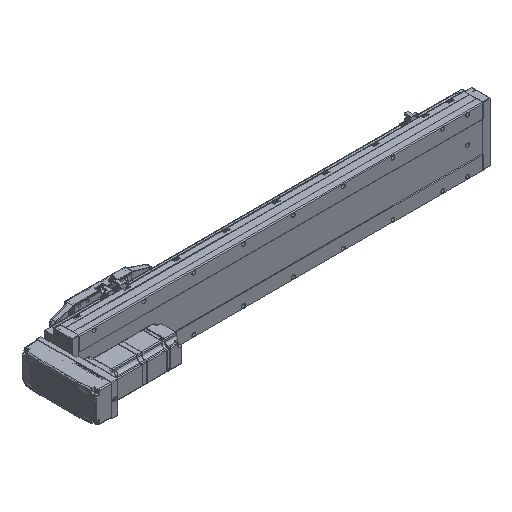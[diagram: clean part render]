
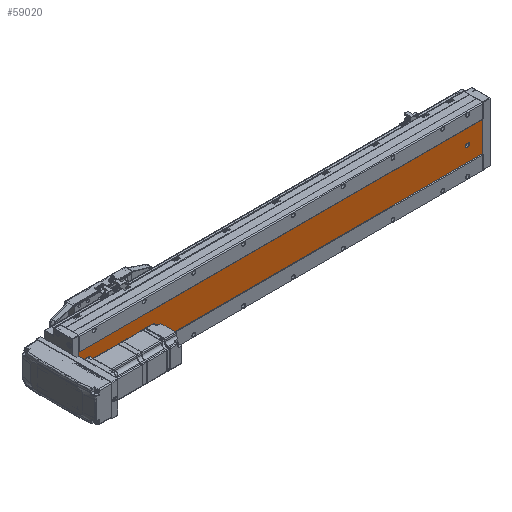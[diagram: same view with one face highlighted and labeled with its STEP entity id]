
A CAD part, isometric view. The second image highlights one B-rep face of the part: STEP entity #59020.
In plain terms, the highlighted planar face has unit normal (0, -1, 0).
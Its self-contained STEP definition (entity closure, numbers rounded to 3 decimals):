
#669 = CARTESIAN_POINT ( 'NONE',  ( -39.892, -52.848, 777.5 ) ) ;
#1227 = CARTESIAN_POINT ( 'NONE',  ( -36.392, -52.848, 811. ) ) ;
#1866 = CARTESIAN_POINT ( 'NONE',  ( -9.892, -52.848, 0. ) ) ;
#2814 = DIRECTION ( 'NONE',  ( 0., 0., 1. ) ) ;
#3442 = AXIS2_PLACEMENT_3D ( 'NONE', #9436, #33025, #2814 ) ;
#3583 = VERTEX_POINT ( 'NONE', #21630 ) ;
#4098 = VECTOR ( 'NONE', #8934, 1000. ) ;
#4342 = CARTESIAN_POINT ( 'NONE',  ( -39.892, -52.848, 784.5 ) ) ;
#4969 = VERTEX_POINT ( 'NONE', #26384 ) ;
#5356 = ORIENTED_EDGE ( 'NONE', *, *, #30954, .T. ) ;
#5960 = CARTESIAN_POINT ( 'NONE',  ( -69.892, -52.848, 811. ) ) ;
#5987 = CIRCLE ( 'NONE', #74543, 3.5 ) ;
#6140 = CARTESIAN_POINT ( 'NONE',  ( -39.892, -52.848, 26.5 ) ) ;
#6318 = EDGE_CURVE ( 'NONE', #64102, #4969, #70614, .T. ) ;
#7580 = DIRECTION ( 'NONE',  ( 0., 0., 1. ) ) ;
#7690 = EDGE_CURVE ( 'NONE', #22641, #64109, #63854, .T. ) ;
#8378 = LINE ( 'NONE', #5960, #47227 ) ;
#8934 = DIRECTION ( 'NONE',  ( 0., 0., -1. ) ) ;
#9436 = CARTESIAN_POINT ( 'NONE',  ( -69.892, -52.848, 811. ) ) ;
#9840 = EDGE_CURVE ( 'NONE', #69020, #36803, #22616, .T. ) ;
#10709 = CIRCLE ( 'NONE', #67692, 3.5 ) ;
#11244 = CARTESIAN_POINT ( 'NONE',  ( -36.392, -52.848, 30. ) ) ;
#12187 = DIRECTION ( 'NONE',  ( 0., 0., 1. ) ) ;
#17876 = CARTESIAN_POINT ( 'NONE',  ( -9.892, -52.848, 811. ) ) ;
#18481 = ORIENTED_EDGE ( 'NONE', *, *, #9840, .T. ) ;
#18681 = CARTESIAN_POINT ( 'NONE',  ( -69.892, -52.848, 0. ) ) ;
#18747 = ORIENTED_EDGE ( 'NONE', *, *, #7690, .F. ) ;
#19376 = FACE_OUTER_BOUND ( 'NONE', #67653, .T. ) ;
#19897 = EDGE_CURVE ( 'NONE', #3583, #24231, #43252, .T. ) ;
#20036 = DIRECTION ( 'NONE',  ( 0., 0., 1. ) ) ;
#20340 = AXIS2_PLACEMENT_3D ( 'NONE', #31711, #73932, #7580 ) ;
#21630 = CARTESIAN_POINT ( 'NONE',  ( -43.392, -52.848, 30. ) ) ;
#22616 = CIRCLE ( 'NONE', #24709, 3.5 ) ;
#22641 = VERTEX_POINT ( 'NONE', #17876 ) ;
#23317 = ORIENTED_EDGE ( 'NONE', *, *, #65452, .T. ) ;
#23514 = DIRECTION ( 'NONE',  ( 0., 1., 0. ) ) ;
#23825 = EDGE_LOOP ( 'NONE', ( #18481, #54421 ) ) ;
#24231 = VERTEX_POINT ( 'NONE', #74295 ) ;
#24447 = CARTESIAN_POINT ( 'NONE',  ( -39.892, -52.848, 781. ) ) ;
#24709 = AXIS2_PLACEMENT_3D ( 'NONE', #24447, #55190, #36125 ) ;
#25557 = DIRECTION ( 'NONE',  ( 0., 0., -1. ) ) ;
#25682 = CARTESIAN_POINT ( 'NONE',  ( -69.892, -52.848, 811. ) ) ;
#25851 = CARTESIAN_POINT ( 'NONE',  ( -39.892, -52.848, 32. ) ) ;
#26373 = CIRCLE ( 'NONE', #75484, 3.5 ) ;
#26384 = CARTESIAN_POINT ( 'NONE',  ( -39.892, -52.848, 684.5 ) ) ;
#26636 = ORIENTED_EDGE ( 'NONE', *, *, #19897, .T. ) ;
#26903 = PLANE ( 'NONE',  #3442 ) ;
#26940 = FACE_BOUND ( 'NONE', #29094, .T. ) ;
#28057 = VECTOR ( 'NONE', #48833, 1000. ) ;
#29094 = EDGE_LOOP ( 'NONE', ( #39901, #53133, #5356, #41180, #26636 ) ) ;
#29878 = EDGE_CURVE ( 'NONE', #37718, #22641, #8378, .T. ) ;
#30378 = AXIS2_PLACEMENT_3D ( 'NONE', #54315, #78464, #12187 ) ;
#30954 = EDGE_CURVE ( 'NONE', #38626, #43805, #61661, .T. ) ;
#31692 = FACE_BOUND ( 'NONE', #23825, .T. ) ;
#31711 = CARTESIAN_POINT ( 'NONE',  ( -39.892, -52.848, 30. ) ) ;
#32420 = EDGE_LOOP ( 'NONE', ( #42169, #35755 ) ) ;
#32844 = VECTOR ( 'NONE', #35814, 1000. ) ;
#33025 = DIRECTION ( 'NONE',  ( 0., 1., 0. ) ) ;
#34786 = EDGE_CURVE ( 'NONE', #4969, #64102, #5987, .T. ) ;
#34842 = AXIS2_PLACEMENT_3D ( 'NONE', #41797, #23514, #77120 ) ;
#35755 = ORIENTED_EDGE ( 'NONE', *, *, #34786, .T. ) ;
#35814 = DIRECTION ( 'NONE',  ( 0., 0., -1. ) ) ;
#36094 = VECTOR ( 'NONE', #25557, 1000. ) ;
#36125 = DIRECTION ( 'NONE',  ( 0., 0., 1. ) ) ;
#36437 = EDGE_CURVE ( 'NONE', #37594, #38626, #68384, .T. ) ;
#36707 = DIRECTION ( 'NONE',  ( 0., 0., 1. ) ) ;
#36803 = VERTEX_POINT ( 'NONE', #4342 ) ;
#37594 = VERTEX_POINT ( 'NONE', #73242 ) ;
#37718 = VERTEX_POINT ( 'NONE', #25682 ) ;
#37772 = ORIENTED_EDGE ( 'NONE', *, *, #29878, .F. ) ;
#38626 = VERTEX_POINT ( 'NONE', #11244 ) ;
#39901 = ORIENTED_EDGE ( 'NONE', *, *, #71644, .T. ) ;
#41180 = ORIENTED_EDGE ( 'NONE', *, *, #77028, .T. ) ;
#41797 = CARTESIAN_POINT ( 'NONE',  ( -39.892, -52.848, 681. ) ) ;
#42169 = ORIENTED_EDGE ( 'NONE', *, *, #6318, .T. ) ;
#42341 = ORIENTED_EDGE ( 'NONE', *, *, #75115, .T. ) ;
#43252 = LINE ( 'NONE', #73039, #28057 ) ;
#43805 = VERTEX_POINT ( 'NONE', #6140 ) ;
#47227 = VECTOR ( 'NONE', #61368, 1000. ) ;
#47817 = FACE_BOUND ( 'NONE', #32420, .T. ) ;
#48833 = DIRECTION ( 'NONE',  ( 0., 0., 1. ) ) ;
#53133 = ORIENTED_EDGE ( 'NONE', *, *, #36437, .T. ) ;
#54315 = CARTESIAN_POINT ( 'NONE',  ( -39.892, -52.848, 781. ) ) ;
#54421 = ORIENTED_EDGE ( 'NONE', *, *, #66089, .T. ) ;
#54476 = DIRECTION ( 'NONE',  ( 0., 1., 0. ) ) ;
#55190 = DIRECTION ( 'NONE',  ( 0., 1., 0. ) ) ;
#56559 = LINE ( 'NONE', #72476, #32844 ) ;
#57145 = VECTOR ( 'NONE', #67193, 1000. ) ;
#57564 = DIRECTION ( 'NONE',  ( 0., 0., 1. ) ) ;
#59020 = ADVANCED_FACE ( 'NONE', ( #26940, #47817, #31692, #19376 ), #26903, .F. ) ;
#60110 = CIRCLE ( 'NONE', #30378, 3.5 ) ;
#61368 = DIRECTION ( 'NONE',  ( 1., 0., 0. ) ) ;
#61661 = CIRCLE ( 'NONE', #20340, 3.5 ) ;
#63184 = CARTESIAN_POINT ( 'NONE',  ( -39.892, -52.848, 30. ) ) ;
#63854 = LINE ( 'NONE', #75779, #4098 ) ;
#64102 = VERTEX_POINT ( 'NONE', #73784 ) ;
#64109 = VERTEX_POINT ( 'NONE', #1866 ) ;
#64818 = LINE ( 'NONE', #18681, #57145 ) ;
#65452 = EDGE_CURVE ( 'NONE', #69338, #64109, #64818, .T. ) ;
#66089 = EDGE_CURVE ( 'NONE', #36803, #69020, #60110, .T. ) ;
#67193 = DIRECTION ( 'NONE',  ( 1., 0., 0. ) ) ;
#67256 = CARTESIAN_POINT ( 'NONE',  ( -39.892, -52.848, 681. ) ) ;
#67653 = EDGE_LOOP ( 'NONE', ( #23317, #18747, #37772, #42341 ) ) ;
#67692 = AXIS2_PLACEMENT_3D ( 'NONE', #63184, #75128, #57564 ) ;
#68384 = LINE ( 'NONE', #1227, #36094 ) ;
#69020 = VERTEX_POINT ( 'NONE', #669 ) ;
#69338 = VERTEX_POINT ( 'NONE', #73256 ) ;
#70614 = CIRCLE ( 'NONE', #34842, 3.5 ) ;
#71644 = EDGE_CURVE ( 'NONE', #24231, #37594, #26373, .T. ) ;
#72476 = CARTESIAN_POINT ( 'NONE',  ( -69.892, -52.848, 811. ) ) ;
#73039 = CARTESIAN_POINT ( 'NONE',  ( -43.392, -52.848, 811. ) ) ;
#73242 = CARTESIAN_POINT ( 'NONE',  ( -36.392, -52.848, 32. ) ) ;
#73256 = CARTESIAN_POINT ( 'NONE',  ( -69.892, -52.848, 0. ) ) ;
#73784 = CARTESIAN_POINT ( 'NONE',  ( -39.892, -52.848, 677.5 ) ) ;
#73932 = DIRECTION ( 'NONE',  ( 0., 1., 0. ) ) ;
#74295 = CARTESIAN_POINT ( 'NONE',  ( -43.392, -52.848, 32. ) ) ;
#74450 = DIRECTION ( 'NONE',  ( 0., 1., 0. ) ) ;
#74543 = AXIS2_PLACEMENT_3D ( 'NONE', #67256, #54476, #36707 ) ;
#75115 = EDGE_CURVE ( 'NONE', #37718, #69338, #56559, .T. ) ;
#75128 = DIRECTION ( 'NONE',  ( 0., 1., 0. ) ) ;
#75484 = AXIS2_PLACEMENT_3D ( 'NONE', #25851, #74450, #20036 ) ;
#75779 = CARTESIAN_POINT ( 'NONE',  ( -9.892, -52.848, 811. ) ) ;
#77028 = EDGE_CURVE ( 'NONE', #43805, #3583, #10709, .T. ) ;
#77120 = DIRECTION ( 'NONE',  ( 0., 0., 1. ) ) ;
#78464 = DIRECTION ( 'NONE',  ( 0., 1., 0. ) ) ;
